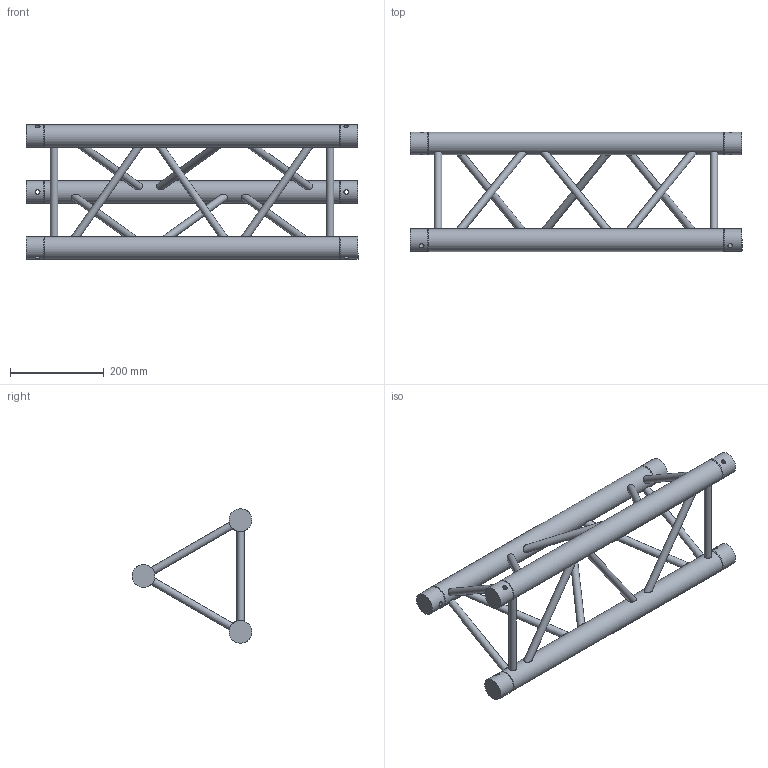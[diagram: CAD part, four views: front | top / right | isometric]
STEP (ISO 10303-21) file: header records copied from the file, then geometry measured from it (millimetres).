
FILE_DESCRIPTION(/* description */ (''),/* implementation_level */ '2;1');
FILE_NAME(/* name */ 'M:\Symbolen\STP\30-er truss\111050009.stp',/* time_stamp */ '2014-12-03T11:46:09+01:00',/* author */ ('Stephan'),/* organization */ (''),/* preprocessor_version */ 'ST-DEVELOPER v15.6',/* originating_system */ 'Autodesk Inventor 2015',/* authorisation */ '');
FILE_SCHEMA (('AUTOMOTIVE_DESIGN { 1 0 10303 214 3 1 1 }'));
Length unit declared in the file: millimetre
Products named in the file (1): 160023773
Bounding box: 710 x 255.28 x 287.3 mm (x, y, z)
Volume: 4069492.2 mm3; surface area: 514310.2 mm2
Topology: 12 solids, 18 shells, 90 faces, 153 edges, 99 vertices
Faces by surface type: plane 54, cylinder 30, cone 6
Full cylindrical faces by diameter (mm): 10 x6, 16 x15, 48.3 x9
Entity records: 2511 total; most frequent: CARTESIAN_POINT 703, DIRECTION 326, ORIENTED_EDGE 228, AXIS2_PLACEMENT_3D 157, EDGE_LOOP 156, EDGE_CURVE 102, STYLED_ITEM 100, FACE_OUTER_BOUND 90
